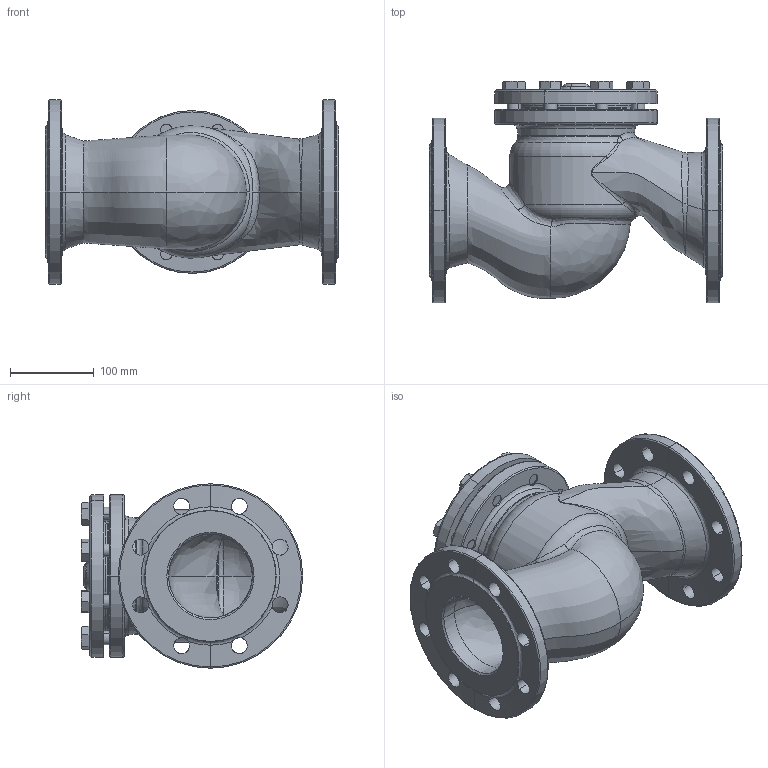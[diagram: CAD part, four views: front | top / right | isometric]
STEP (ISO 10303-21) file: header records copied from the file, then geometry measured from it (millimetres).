
FILE_DESCRIPTION (( 'STEP AP214' ), '1' );
FILE_NAME ('TCV_DN100 PN16.STEP', '2024-08-15T12:01:59', ( '' ), ( '' ), 'SwSTEP 2.0', 'SolidWorks 2023', '' );
FILE_SCHEMA (( 'AUTOMOTIVE_DESIGN' ));
Length unit declared in the file: millimetre
Products named in the file (1): TCV_DN100 PN16
Bounding box: 350 x 264 x 220 mm (x, y, z)
Volume: 3506145.3 mm3; surface area: 599593.4 mm2
Topology: 10 solids, 10 shells, 507 faces, 1243 edges, 741 vertices
Faces by surface type: plane 134, cylinder 130, cone 94, bspline 90, torus 59
Entity records: 112114 total; most frequent: CARTESIAN_POINT 101013, ORIENTED_EDGE 2474, DIRECTION 1994, EDGE_CURVE 1237, AXIS2_PLACEMENT_3D 836, VERTEX_POINT 741, EDGE_LOOP 566, ADVANCED_FACE 507
